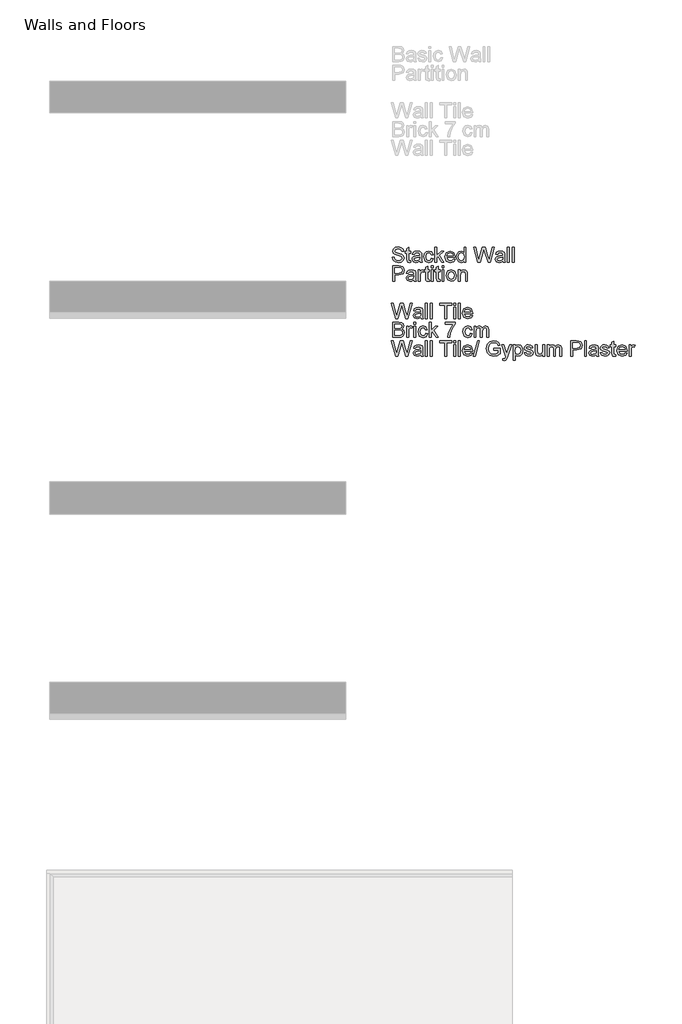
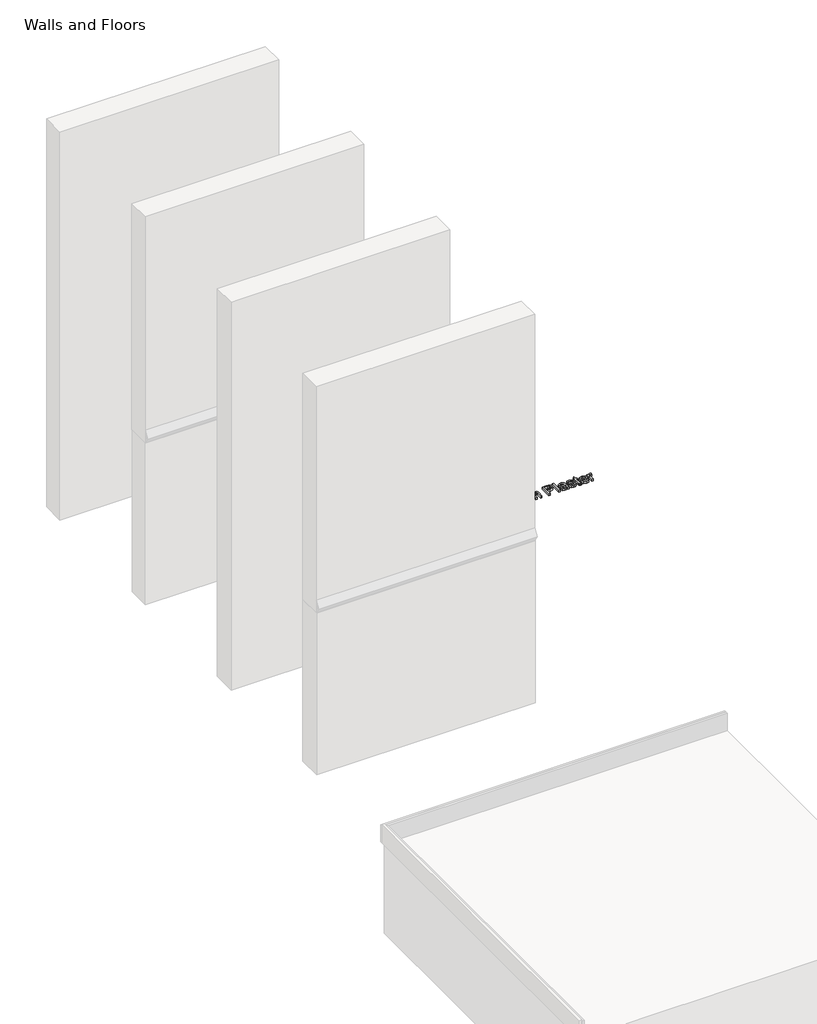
# One storey, part 2 of 2: 1 proxy.
"""IFC4 building model written with IfcOpenShell, lengths in millimetres."""

from ifc_helpers import new_model, si_unit, origin, origin_with_axes, place, context, project, spatial, polyline, outline, extrude, element, save

model = new_model("IFC4")

# Units and contexts
model_context = context("Model", 3, world=origin())
ifc_project = project(units=[si_unit("LENGTHUNIT", "METRE", prefix="MILLI")], contexts=[model_context])

# Site, building, storey
site = spatial("IfcSite", under=ifc_project)
building = spatial("IfcBuilding", under=site)
storey = spatial("IfcBuildingStorey", under=building, Name="Walls and Floors", Elevation=0.0)

# Proxy
placement = place(None, origin())
element("IfcBuildingElementProxy", 1, Name="4mm Arial", ObjectType="4mm Arial", at=placement, inside=storey, context=model_context, shape_type="SweptSolid", body=[
    extrude(outline(polyline([(-3844.7801317, -1635.8686232), (-3838.6262856, -1635.8686232), (-3836.6431125, -1642.028479), (-3831.7993625, -1645.9227098), (-3824.4195548, -1647.4070848), (-3817.9892663, -1646.2832867), (-3813.8366221, -1643.1943444), (-3812.4724394, -1639.0657386), (-3813.494074, -1635.2255944), (-3817.6767663, -1632.4311232), (-3826.6371029, -1630.0813636), (-3836.2825356, -1627.0465079), (-3841.5169106, -1622.4671809), (-3843.2416702, -1616.3493925), (-3841.1082567, -1609.3842482), (-3834.8762856, -1604.4683829), (-3825.7536894, -1602.7917002), (-3816.0181125, -1604.5465079), (-3809.5277279, -1609.7027579), (-3807.087824, -1617.4070848), (-3813.2416702, -1617.4070848), (-3816.7272471, -1611.0849694), (-3825.5133048, -1608.9455463), (-3834.323401, -1611.0609309), (-3837.087824, -1616.169104), (-3835.1286894, -1620.4359309), (-3825.0806125, -1623.8734309), (-3814.1911894, -1626.9623732), (-3808.2356606, -1631.950354), (-3806.3185933, -1638.9094886), (-3808.5241221, -1646.2712675), (-3814.870276, -1651.6438636), (-3824.1791702, -1653.5609309), (-3835.1707567, -1651.4936232), (-3842.1238817, -1645.2676617), (-3844.7801317, -1635.8686232)])), origin_with_axes(), (0.0, 0.0, 1.0), 10.0),
    extrude(outline(polyline([(-3784.7801317, -1647.6594886), (-3784.010901, -1652.9719886), (-3788.6142663, -1653.5609309), (-3793.7705163, -1652.5392963), (-3796.3426317, -1649.8590079), (-3797.087824, -1642.8758348), (-3797.087824, -1622.7917002), (-3801.7032087, -1622.7917002), (-3801.7032087, -1616.637854), (-3797.087824, -1616.637854), (-3797.087824, -1607.8517963), (-3790.9339779, -1604.2340079), (-3790.9339779, -1616.637854), (-3784.7801317, -1616.637854), (-3784.7801317, -1622.7917002), (-3790.9339779, -1622.7917002), (-3790.9339779, -1642.6955463), (-3790.6094587, -1645.8686232), (-3787.4604202, -1647.4070848), (-3784.7801317, -1647.6594886)])), origin_with_axes(), (0.0, 0.0, 1.0), 10.0),
    extrude(outline(polyline([(-3755.5493625, -1648.1763155), (-3761.5169106, -1652.3469886), (-3768.1094587, -1653.5609309), (-3777.0457567, -1650.6402579), (-3780.1647471, -1643.1763155), (-3778.9868625, -1638.3085271), (-3775.8919106, -1634.7748732), (-3771.5830163, -1632.7556425), (-3766.2584971, -1631.8301617), (-3755.5854202, -1629.7147771), (-3757.244074, -1623.8013155), (-3764.0469587, -1622.0224694), (-3770.2729202, -1623.2063636), (-3773.2416702, -1627.4070848), (-3779.3955163, -1626.637854), (-3776.7332567, -1620.6282386), (-3771.3726798, -1617.106604), (-3763.2536894, -1615.8686232), (-3755.7957567, -1616.9623732), (-3751.5830163, -1619.7087675), (-3749.6959971, -1623.8854502), (-3749.3955163, -1629.2700655), (-3749.3955163, -1636.9263155), (-3749.0830163, -1647.6174213), (-3747.8570548, -1652.7917002), (-3754.010901, -1652.7917002), (-3755.5493625, -1648.1763155)]), holes=[polyline([(-3755.5493625, -1635.8686232), (-3765.4772471, -1637.7556425), (-3770.7717183, -1638.7532386), (-3773.1695548, -1640.3758348), (-3774.010901, -1642.7436232), (-3772.1779683, -1646.0729502), (-3766.7993625, -1647.4070848), (-3760.573401, -1645.934729), (-3756.5589779, -1642.3710271), (-3755.5854202, -1637.6114117), (-3755.5493625, -1635.8686232)])]), origin_with_axes(), (0.0, 0.0, 1.0), 10.0),
    extrude(outline(polyline([(-3717.8570548, -1639.7147771), (-3711.7032087, -1640.4840079), (-3716.6431125, -1650.0933829), (-3726.4027279, -1653.5609309), (-3738.0673913, -1648.7231905), (-3742.4724394, -1634.8469886), (-3740.5914298, -1624.6246329), (-3734.8582567, -1618.0561232), (-3726.4868625, -1615.8686232), (-3717.1298913, -1618.8734309), (-3712.4724394, -1627.4070848), (-3718.6262856, -1628.1763155), (-3721.4808529, -1623.5669405), (-3726.4387856, -1622.0224694), (-3733.572199, -1625.0633348), (-3736.3185933, -1634.6787194), (-3733.6322952, -1644.3842482), (-3726.6070548, -1647.4070848), (-3720.807776, -1645.5200655), (-3717.8570548, -1639.7147771)])), origin_with_axes(), (0.0, 0.0, 1.0), 10.0),
    extrude(outline(polyline([(-3706.3185933, -1652.7917002), (-3706.3185933, -1603.5609309), (-3700.1647471, -1603.5609309), (-3700.1647471, -1630.0152579), (-3686.3666702, -1616.637854), (-3677.8570548, -1616.637854), (-3691.823401, -1630.1835271), (-3677.087824, -1652.7917002), (-3684.275324, -1652.7917002), (-3696.2344587, -1634.4623732), (-3700.1647471, -1638.2724694), (-3700.1647471, -1652.7917002), (-3706.3185933, -1652.7917002)])), origin_with_axes(), (0.0, 0.0, 1.0), 10.0),
    extrude(outline(polyline([(-3646.3907087, -1642.0224694), (-3640.3570548, -1642.7917002), (-3646.0000837, -1650.7364117), (-3656.510901, -1653.5609309), (-3669.2873433, -1648.6871329), (-3674.010901, -1635.0152579), (-3669.2392663, -1620.8926617), (-3656.8594587, -1615.8686232), (-3644.8342183, -1620.8806425), (-3640.1647471, -1634.9792002), (-3640.2008048, -1636.637854), (-3667.8570548, -1636.637854), (-3664.3173913, -1644.6306425), (-3656.3907087, -1647.4070848), (-3650.3570548, -1646.1210271), (-3646.3907087, -1642.0224694)]), holes=[polyline([(-3667.8570548, -1630.4840079), (-3646.3185933, -1630.4840079), (-3648.7825356, -1624.9070848), (-3656.8834971, -1622.0224694), (-3664.4616221, -1624.3241521), (-3667.8570548, -1630.4840079)])]), origin_with_axes(), (0.0, 0.0, 1.0), 10.0),
    extrude(outline(polyline([(-3611.7032087, -1652.7917002), (-3611.7032087, -1646.9864117), (-3615.7747231, -1651.9173011), (-3621.4027279, -1653.5609309), (-3629.0229202, -1651.1811232), (-3634.4075356, -1644.5404982), (-3636.3185933, -1634.7508348), (-3634.557776, -1624.9551617), (-3629.2813337, -1618.2123732), (-3621.4267663, -1615.8686232), (-3615.7536894, -1617.5453059), (-3611.7032087, -1621.9022771), (-3611.7032087, -1603.5609309), (-3605.5493625, -1603.5609309), (-3605.5493625, -1652.7917002), (-3611.7032087, -1652.7917002)]), holes=[polyline([(-3630.1647471, -1634.7267963), (-3627.3883048, -1644.2520367), (-3620.837824, -1647.4070848), (-3614.3654683, -1644.3962675), (-3611.7032087, -1635.1955463), (-3614.4135452, -1625.2075655), (-3621.0902279, -1622.0224694), (-3627.5685933, -1625.0813636), (-3630.1647471, -1634.7267963)])]), origin_with_axes(), (0.0, 0.0, 1.0), 10.0),
    extrude(outline(polyline([(-3567.5084971, -1652.7917002), (-3580.9339779, -1603.5609309), (-3574.587824, -1603.5609309), (-3566.7993625, -1635.9167002), (-3564.3955163, -1645.9046809), (-3561.823401, -1637.0705463), (-3552.0637856, -1603.5609309), (-3542.917151, -1603.5609309), (-3535.8258048, -1627.8517963), (-3530.5493625, -1645.9046809), (-3528.2176317, -1636.2051617), (-3520.3570548, -1603.5609309), (-3514.010901, -1603.5609309), (-3527.448401, -1652.7917002), (-3534.0229202, -1652.7917002), (-3545.8258048, -1614.8109309), (-3547.4724394, -1609.5104502), (-3549.323401, -1615.8926617), (-3560.0806125, -1652.7917002), (-3567.5084971, -1652.7917002)])), origin_with_axes(), (0.0, 0.0, 1.0), 10.0),
    extrude(outline(polyline([(-3485.5493625, -1648.1763155), (-3491.5169106, -1652.3469886), (-3498.1094587, -1653.5609309), (-3507.0457567, -1650.6402579), (-3510.1647471, -1643.1763155), (-3508.9868625, -1638.3085271), (-3505.8919106, -1634.7748732), (-3501.5830163, -1632.7556425), (-3496.2584971, -1631.8301617), (-3485.5854202, -1629.7147771), (-3487.244074, -1623.8013155), (-3494.0469587, -1622.0224694), (-3500.2729202, -1623.2063636), (-3503.2416702, -1627.4070848), (-3509.3955163, -1626.637854), (-3506.7332567, -1620.6282386), (-3501.3726798, -1617.106604), (-3493.2536894, -1615.8686232), (-3485.7957567, -1616.9623732), (-3481.5830163, -1619.7087675), (-3479.6959971, -1623.8854502), (-3479.3955163, -1629.2700655), (-3479.3955163, -1636.9263155), (-3479.0830163, -1647.6174213), (-3477.8570548, -1652.7917002), (-3484.010901, -1652.7917002), (-3485.5493625, -1648.1763155)]), holes=[polyline([(-3485.5493625, -1635.8686232), (-3495.4772471, -1637.7556425), (-3500.7717183, -1638.7532386), (-3503.1695548, -1640.3758348), (-3504.010901, -1642.7436232), (-3502.1779683, -1646.0729502), (-3496.7993625, -1647.4070848), (-3490.573401, -1645.934729), (-3486.5589779, -1642.3710271), (-3485.5854202, -1637.6114117), (-3485.5493625, -1635.8686232)])]), origin_with_axes(), (0.0, 0.0, 1.0), 10.0),
    extrude(outline(polyline([(-3470.9339779, -1652.7917002), (-3470.9339779, -1603.5609309), (-3464.7801317, -1603.5609309), (-3464.7801317, -1652.7917002), (-3470.9339779, -1652.7917002)])), origin_with_axes(), (0.0, 0.0, 1.0), 10.0),
    extrude(outline(polyline([(-3455.5493625, -1652.7917002), (-3455.5493625, -1603.5609309), (-3449.3955163, -1603.5609309), (-3449.3955163, -1652.7917002), (-3455.5493625, -1652.7917002)])), origin_with_axes(), (0.0, 0.0, 1.0), 10.0),
    extrude(outline(polyline([(-3842.4724394, -1713.5609309), (-3842.4724394, -1664.3301617), (-3824.2272471, -1664.3301617), (-3816.8714779, -1664.7989117), (-3810.8919106, -1667.1005944), (-3807.0157087, -1671.8602098), (-3805.5493625, -1678.5729502), (-3809.509699, -1689.2099694), (-3823.806574, -1693.5609309), (-3836.3185933, -1693.5609309), (-3836.3185933, -1713.5609309), (-3842.4724394, -1713.5609309)]), holes=[polyline([(-3836.3185933, -1687.4070848), (-3823.4459971, -1687.4070848), (-3814.3834971, -1685.1474694), (-3811.7032087, -1678.7892963), (-3813.2837375, -1673.6931425), (-3817.4363817, -1670.9046809), (-3823.5902279, -1670.4840079), (-3836.3185933, -1670.4840079), (-3836.3185933, -1687.4070848)])]), origin_with_axes(), (0.0, 0.0, 1.0), 10.0),
    extrude(outline(polyline([(-3774.7801317, -1708.9455463), (-3780.7476798, -1713.1162194), (-3787.3402279, -1714.3301617), (-3796.276526, -1711.4094886), (-3799.3955163, -1703.9455463), (-3798.2176317, -1699.0777579), (-3795.1226798, -1695.544104), (-3790.8137856, -1693.5248732), (-3785.4892663, -1692.5993925), (-3774.8161894, -1690.4840079), (-3776.4748433, -1684.5705463), (-3783.2777279, -1682.7917002), (-3789.5036894, -1683.9755944), (-3792.4724394, -1688.1763155), (-3798.6262856, -1687.4070848), (-3795.964026, -1681.3974694), (-3790.603449, -1677.8758348), (-3782.4844587, -1676.637854), (-3775.026526, -1677.731604), (-3770.8137856, -1680.4779982), (-3768.9267663, -1684.6546809), (-3768.6262856, -1690.0392963), (-3768.6262856, -1697.6955463), (-3768.3137856, -1708.3866521), (-3767.087824, -1713.5609309), (-3773.2416702, -1713.5609309), (-3774.7801317, -1708.9455463)]), holes=[polyline([(-3774.7801317, -1696.637854), (-3784.7080163, -1698.5248732), (-3790.0024875, -1699.5224694), (-3792.400324, -1701.1450655), (-3793.2416702, -1703.512854), (-3791.4087375, -1706.8421809), (-3786.0301317, -1708.1763155), (-3779.8041702, -1706.7039598), (-3775.7897471, -1703.1402579), (-3774.8161894, -1698.3806425), (-3774.7801317, -1696.637854)])]), origin_with_axes(), (0.0, 0.0, 1.0), 10.0),
    extrude(outline(polyline([(-3760.1647471, -1713.5609309), (-3760.1647471, -1677.4070848), (-3754.7801317, -1677.4070848), (-3754.7801317, -1682.7556425), (-3750.9580163, -1677.8277579), (-3747.1118625, -1676.637854), (-3740.9339779, -1678.5368925), (-3742.9892663, -1684.0537194), (-3747.3161894, -1682.7917002), (-3750.7957567, -1684.0056425), (-3753.0133048, -1687.3710271), (-3754.010901, -1694.5585271), (-3754.010901, -1713.5609309), (-3760.1647471, -1713.5609309)])), origin_with_axes(), (0.0, 0.0, 1.0), 10.0),
    extrude(outline(polyline([(-3724.010901, -1708.4287194), (-3723.2416702, -1713.7412194), (-3727.8450356, -1714.3301617), (-3733.0012856, -1713.3085271), (-3735.573401, -1710.6282386), (-3736.3185933, -1703.6450655), (-3736.3185933, -1683.5609309), (-3740.9339779, -1683.5609309), (-3740.9339779, -1677.4070848), (-3736.3185933, -1677.4070848), (-3736.3185933, -1668.6210271), (-3730.1647471, -1665.0032386), (-3730.1647471, -1677.4070848), (-3724.010901, -1677.4070848), (-3724.010901, -1683.5609309), (-3730.1647471, -1683.5609309), (-3730.1647471, -1703.4647771), (-3729.8402279, -1706.637854), (-3726.6911894, -1708.1763155), (-3724.010901, -1708.4287194)])), origin_with_axes(), (0.0, 0.0, 1.0), 10.0),
    extrude(outline(polyline([(-3717.8570548, -1670.4840079), (-3717.8570548, -1664.3301617), (-3711.7032087, -1664.3301617), (-3711.7032087, -1670.4840079), (-3717.8570548, -1670.4840079)])), origin_with_axes(), (0.0, 0.0, 1.0), 10.0),
    extrude(outline(polyline([(-3717.8570548, -1713.5609309), (-3717.8570548, -1677.4070848), (-3711.7032087, -1677.4070848), (-3711.7032087, -1713.5609309), (-3717.8570548, -1713.5609309)])), origin_with_axes(), (0.0, 0.0, 1.0), 10.0),
    extrude(outline(polyline([(-3689.3955163, -1708.4287194), (-3688.6262856, -1713.7412194), (-3693.229651, -1714.3301617), (-3698.385901, -1713.3085271), (-3700.9580163, -1710.6282386), (-3701.7032087, -1703.6450655), (-3701.7032087, -1683.5609309), (-3706.3185933, -1683.5609309), (-3706.3185933, -1677.4070848), (-3701.7032087, -1677.4070848), (-3701.7032087, -1668.6210271), (-3695.5493625, -1665.0032386), (-3695.5493625, -1677.4070848), (-3689.3955163, -1677.4070848), (-3689.3955163, -1683.5609309), (-3695.5493625, -1683.5609309), (-3695.5493625, -1703.4647771), (-3695.2248433, -1706.637854), (-3692.0758048, -1708.1763155), (-3689.3955163, -1708.4287194)])), origin_with_axes(), (0.0, 0.0, 1.0), 10.0),
    extrude(outline(polyline([(-3683.2416702, -1713.5609309), (-3683.2416702, -1677.4070848), (-3677.087824, -1677.4070848), (-3677.087824, -1713.5609309), (-3683.2416702, -1713.5609309)])), origin_with_axes(), (0.0, 0.0, 1.0), 10.0),
    extrude(outline(polyline([(-3683.2416702, -1670.4840079), (-3683.2416702, -1664.3301617), (-3677.087824, -1664.3301617), (-3677.087824, -1670.4840079), (-3683.2416702, -1670.4840079)])), origin_with_axes(), (0.0, 0.0, 1.0), 10.0),
    extrude(outline(polyline([(-3669.3955163, -1695.4840079), (-3668.0643865, -1686.7670607), (-3664.0709971, -1680.6402579), (-3653.229651, -1676.637854), (-3641.6010452, -1681.5116521), (-3637.087824, -1694.9792002), (-3639.0830163, -1705.9287194), (-3644.8943144, -1712.1246329), (-3653.229651, -1714.3301617), (-3664.9303721, -1709.4743925), (-3669.3955163, -1695.4840079)]), holes=[polyline([(-3663.2416702, -1695.4719886), (-3660.3931125, -1705.0092482), (-3653.229651, -1708.1763155), (-3646.0902279, -1704.9912194), (-3643.2416702, -1695.2796809), (-3646.1082567, -1685.9587675), (-3653.229651, -1682.7917002), (-3660.3931125, -1685.9467482), (-3663.2416702, -1695.4719886)])]), origin_with_axes(), (0.0, 0.0, 1.0), 10.0),
    extrude(outline(polyline([(-3630.1647471, -1713.5609309), (-3630.1647471, -1677.4070848), (-3624.010901, -1677.4070848), (-3624.010901, -1682.4551617), (-3619.3053721, -1678.0921809), (-3612.8810933, -1676.637854), (-3607.0697952, -1677.809729), (-3603.103449, -1680.8866521), (-3601.2584971, -1685.4118925), (-3600.9339779, -1691.3614117), (-3600.9339779, -1713.5609309), (-3607.087824, -1713.5609309), (-3607.087824, -1692.1907386), (-3607.7969587, -1686.7460271), (-3610.3029683, -1683.8674213), (-3614.5277279, -1682.7917002), (-3621.2044106, -1685.2075655), (-3624.010901, -1694.3782386), (-3624.010901, -1713.5609309), (-3630.1647471, -1713.5609309)])), origin_with_axes(), (0.0, 0.0, 1.0), 10.0),
    extrude(outline(polyline([(-3833.6623433, -1835.0993925), (-3847.087824, -1785.8686232), (-3840.7416702, -1785.8686232), (-3832.9532087, -1818.2243925), (-3830.5493625, -1828.2123732), (-3827.9772471, -1819.3782386), (-3818.2176317, -1785.8686232), (-3809.0709971, -1785.8686232), (-3801.979651, -1810.1594886), (-3796.7032087, -1828.2123732), (-3794.3714779, -1818.512854), (-3786.510901, -1785.8686232), (-3780.1647471, -1785.8686232), (-3793.6022471, -1835.0993925), (-3800.1767663, -1835.0993925), (-3811.979651, -1797.1186232), (-3813.6262856, -1791.8181425), (-3815.4772471, -1798.200354), (-3826.2344587, -1835.0993925), (-3833.6623433, -1835.0993925)])), origin_with_axes(), (0.0, 0.0, 1.0), 10.0),
    extrude(outline(polyline([(-3751.7032087, -1830.4840079), (-3757.6707567, -1834.6546809), (-3764.2633048, -1835.8686232), (-3773.1996029, -1832.9479502), (-3776.3185933, -1825.4840079), (-3775.1407087, -1820.6162194), (-3772.0457567, -1817.0825655), (-3767.7368625, -1815.0633348), (-3762.4123433, -1814.137854), (-3751.7392663, -1812.0224694), (-3753.3979202, -1806.1090079), (-3760.2008048, -1804.3301617), (-3766.4267663, -1805.5140559), (-3769.3955163, -1809.7147771), (-3775.5493625, -1808.9455463), (-3772.8871029, -1802.9359309), (-3767.526526, -1799.4142963), (-3759.4075356, -1798.1763155), (-3751.9496029, -1799.2700655), (-3747.7368625, -1802.0164598), (-3745.8498433, -1806.1931425), (-3745.5493625, -1811.5777579), (-3745.5493625, -1819.2340079), (-3745.2368625, -1829.9251136), (-3744.010901, -1835.0993925), (-3750.1647471, -1835.0993925), (-3751.7032087, -1830.4840079)]), holes=[polyline([(-3751.7032087, -1818.1763155), (-3761.6310933, -1820.0633348), (-3766.9255644, -1821.0609309), (-3769.323401, -1822.6835271), (-3770.1647471, -1825.0513155), (-3768.3318144, -1828.3806425), (-3762.9532087, -1829.7147771), (-3756.7272471, -1828.2424213), (-3752.712824, -1824.6787194), (-3751.7392663, -1819.919104), (-3751.7032087, -1818.1763155)])]), origin_with_axes(), (0.0, 0.0, 1.0), 10.0),
    extrude(outline(polyline([(-3737.087824, -1835.0993925), (-3737.087824, -1785.8686232), (-3730.9339779, -1785.8686232), (-3730.9339779, -1835.0993925), (-3737.087824, -1835.0993925)])), origin_with_axes(), (0.0, 0.0, 1.0), 10.0),
    extrude(outline(polyline([(-3721.7032087, -1835.0993925), (-3721.7032087, -1785.8686232), (-3715.5493625, -1785.8686232), (-3715.5493625, -1835.0993925), (-3721.7032087, -1835.0993925)])), origin_with_axes(), (0.0, 0.0, 1.0), 10.0),
    extrude(outline(polyline([(-3674.010901, -1835.0993925), (-3674.010901, -1792.0224694), (-3690.1647471, -1792.0224694), (-3690.1647471, -1785.8686232), (-3651.7032087, -1785.8686232), (-3651.7032087, -1792.0224694), (-3667.8570548, -1792.0224694), (-3667.8570548, -1835.0993925), (-3674.010901, -1835.0993925)])), origin_with_axes(), (0.0, 0.0, 1.0), 10.0),
    extrude(outline(polyline([(-3645.5493625, -1835.0993925), (-3645.5493625, -1798.9455463), (-3639.3955163, -1798.9455463), (-3639.3955163, -1835.0993925), (-3645.5493625, -1835.0993925)])), origin_with_axes(), (0.0, 0.0, 1.0), 10.0),
    extrude(outline(polyline([(-3645.5493625, -1792.0224694), (-3645.5493625, -1785.8686232), (-3639.3955163, -1785.8686232), (-3639.3955163, -1792.0224694), (-3645.5493625, -1792.0224694)])), origin_with_axes(), (0.0, 0.0, 1.0), 10.0),
    extrude(outline(polyline([(-3630.1647471, -1835.0993925), (-3630.1647471, -1785.8686232), (-3624.010901, -1785.8686232), (-3624.010901, -1835.0993925), (-3630.1647471, -1835.0993925)])), origin_with_axes(), (0.0, 0.0, 1.0), 10.0),
    extrude(outline(polyline([(-3589.4676317, -1824.3301617), (-3583.4339779, -1825.0993925), (-3589.0770067, -1833.044104), (-3599.587824, -1835.8686232), (-3612.3642663, -1830.9948252), (-3617.087824, -1817.3229502), (-3612.3161894, -1803.200354), (-3599.9363817, -1798.1763155), (-3587.9111413, -1803.1883348), (-3583.2416702, -1817.2868925), (-3583.2777279, -1818.9455463), (-3610.9339779, -1818.9455463), (-3607.3943144, -1826.9383348), (-3599.4676317, -1829.7147771), (-3593.4339779, -1828.4287194), (-3589.4676317, -1824.3301617)]), holes=[polyline([(-3610.9339779, -1812.7917002), (-3589.3955163, -1812.7917002), (-3591.8594587, -1807.2147771), (-3599.9604202, -1804.3301617), (-3607.5385452, -1806.6318444), (-3610.9339779, -1812.7917002)])]), origin_with_axes(), (0.0, 0.0, 1.0), 10.0),
    extrude(outline(polyline([(-3842.4724394, -1895.8686232), (-3842.4724394, -1846.637854), (-3823.6863817, -1846.637854), (-3814.4856606, -1848.0861713), (-3809.0529683, -1852.5392963), (-3807.087824, -1858.8373732), (-3808.7404683, -1864.5885752), (-3813.7344587, -1868.9455463), (-3807.6707567, -1873.5368925), (-3805.5493625, -1881.1931425), (-3806.9976798, -1887.809729), (-3810.5854202, -1892.5212675), (-3815.9399875, -1895.0212675), (-3823.8306125, -1895.8686232), (-3842.4724394, -1895.8686232)]), holes=[polyline([(-3836.3185933, -1889.7147771), (-3823.698401, -1889.7147771), (-3819.1310933, -1889.4743925), (-3815.2669106, -1888.1342482), (-3812.7068144, -1885.3998732), (-3811.7032087, -1881.2532386), (-3812.8810933, -1876.4695848), (-3816.697199, -1873.6150175), (-3824.2993625, -1872.7917002), (-3836.3185933, -1872.7917002), (-3836.3185933, -1889.7147771)]), polyline([(-3836.3185933, -1866.637854), (-3825.0806125, -1866.637854), (-3818.5181125, -1866.1090079), (-3814.5697952, -1863.8313636), (-3813.2416702, -1859.8229502), (-3814.479651, -1855.8085271), (-3818.025324, -1853.434729), (-3825.9339779, -1852.7917002), (-3836.3185933, -1852.7917002), (-3836.3185933, -1866.637854)])]), origin_with_axes(), (0.0, 0.0, 1.0), 10.0),
    extrude(outline(polyline([(-3797.8570548, -1895.8686232), (-3797.8570548, -1859.7147771), (-3792.4724394, -1859.7147771), (-3792.4724394, -1865.0633348), (-3788.650324, -1860.1354502), (-3784.8041702, -1858.9455463), (-3778.6262856, -1860.8445848), (-3780.681574, -1866.3614117), (-3785.0084971, -1865.0993925), (-3788.4880644, -1866.3133348), (-3790.7056125, -1869.6787194), (-3791.7032087, -1876.8662194), (-3791.7032087, -1895.8686232), (-3797.8570548, -1895.8686232)])), origin_with_axes(), (0.0, 0.0, 1.0), 10.0),
    extrude(outline(polyline([(-3774.7801317, -1852.7917002), (-3774.7801317, -1846.637854), (-3768.6262856, -1846.637854), (-3768.6262856, -1852.7917002), (-3774.7801317, -1852.7917002)])), origin_with_axes(), (0.0, 0.0, 1.0), 10.0),
    extrude(outline(polyline([(-3774.7801317, -1895.8686232), (-3774.7801317, -1859.7147771), (-3768.6262856, -1859.7147771), (-3768.6262856, -1895.8686232), (-3774.7801317, -1895.8686232)])), origin_with_axes(), (0.0, 0.0, 1.0), 10.0),
    extrude(outline(polyline([(-3736.3185933, -1882.7917002), (-3730.1647471, -1883.5609309), (-3735.104651, -1893.1703059), (-3744.8642663, -1896.637854), (-3756.5289298, -1891.8001136), (-3760.9339779, -1877.9239117), (-3759.0529683, -1867.7015559), (-3753.3197952, -1861.1330463), (-3744.948401, -1858.9455463), (-3735.5914298, -1861.950354), (-3730.9339779, -1870.4840079), (-3737.087824, -1871.2532386), (-3739.9423913, -1866.6438636), (-3744.900324, -1865.0993925), (-3752.0337375, -1868.1402579), (-3754.7801317, -1877.7556425), (-3752.0938337, -1887.4611713), (-3745.0685933, -1890.4840079), (-3739.2693144, -1888.5969886), (-3736.3185933, -1882.7917002)])), origin_with_axes(), (0.0, 0.0, 1.0), 10.0),
    extrude(outline(polyline([(-3724.7801317, -1895.8686232), (-3724.7801317, -1846.637854), (-3718.6262856, -1846.637854), (-3718.6262856, -1873.0921809), (-3704.8282087, -1859.7147771), (-3696.3185933, -1859.7147771), (-3710.2849394, -1873.2604502), (-3695.5493625, -1895.8686232), (-3702.7368625, -1895.8686232), (-3714.6959971, -1877.5392963), (-3718.6262856, -1881.3493925), (-3718.6262856, -1895.8686232), (-3724.7801317, -1895.8686232)])), origin_with_axes(), (0.0, 0.0, 1.0), 10.0),
    extrude(outline(polyline([(-3672.4724394, -1853.5609309), (-3672.4724394, -1847.4070848), (-3640.1647471, -1847.4070848), (-3640.1647471, -1852.3830463), (-3649.3294106, -1865.622229), (-3656.3426317, -1882.4912194), (-3658.6262856, -1895.8686232), (-3664.7801317, -1895.8686232), (-3662.3342183, -1881.9864117), (-3655.6214779, -1866.2953059), (-3646.3185933, -1853.5609309), (-3672.4724394, -1853.5609309)])), origin_with_axes(), (0.0, 0.0, 1.0), 10.0),
    extrude(outline(polyline([(-3590.9339779, -1882.7917002), (-3584.7801317, -1883.5609309), (-3589.7200356, -1893.1703059), (-3599.479651, -1896.637854), (-3611.1443144, -1891.8001136), (-3615.5493625, -1877.9239117), (-3613.6683529, -1867.7015559), (-3607.9351798, -1861.1330463), (-3599.5637856, -1858.9455463), (-3590.2068144, -1861.950354), (-3585.5493625, -1870.4840079), (-3591.7032087, -1871.2532386), (-3594.557776, -1866.6438636), (-3599.5157087, -1865.0993925), (-3606.6491221, -1868.1402579), (-3609.3955163, -1877.7556425), (-3606.7092183, -1887.4611713), (-3599.6839779, -1890.4840079), (-3593.884699, -1888.5969886), (-3590.9339779, -1882.7917002)])), origin_with_axes(), (0.0, 0.0, 1.0), 10.0),
    extrude(outline(polyline([(-3579.3955163, -1895.8686232), (-3579.3955163, -1859.7147771), (-3573.2416702, -1859.7147771), (-3573.2416702, -1865.6642963), (-3569.010901, -1860.7904982), (-3562.9892663, -1858.9455463), (-3556.823401, -1860.8265559), (-3553.4339779, -1866.0969886), (-3548.6322952, -1860.7334069), (-3542.5685933, -1858.9455463), (-3534.5217183, -1861.9203059), (-3531.7032087, -1871.0849694), (-3531.7032087, -1895.8686232), (-3537.8570548, -1895.8686232), (-3537.8570548, -1873.7292002), (-3538.4279683, -1868.590979), (-3540.495276, -1866.0609309), (-3544.010901, -1865.0993925), (-3550.0625837, -1867.5633348), (-3552.4724394, -1875.4599694), (-3552.4724394, -1895.8686232), (-3558.6262856, -1895.8686232), (-3558.6262856, -1873.044104), (-3560.0505644, -1867.0825655), (-3564.7200356, -1865.0993925), (-3569.275324, -1866.4215079), (-3572.3041702, -1870.2917002), (-3573.2416702, -1877.6354502), (-3573.2416702, -1895.8686232), (-3579.3955163, -1895.8686232)])), origin_with_axes(), (0.0, 0.0, 1.0), 10.0),
    extrude(outline(polyline([(-3833.6623433, -1956.637854), (-3847.087824, -1907.4070848), (-3840.7416702, -1907.4070848), (-3832.9532087, -1939.762854), (-3830.5493625, -1949.7508348), (-3827.9772471, -1940.9167002), (-3818.2176317, -1907.4070848), (-3809.0709971, -1907.4070848), (-3801.979651, -1931.6979502), (-3796.7032087, -1949.7508348), (-3794.3714779, -1940.0513155), (-3786.510901, -1907.4070848), (-3780.1647471, -1907.4070848), (-3793.6022471, -1956.637854), (-3800.1767663, -1956.637854), (-3811.979651, -1918.6570848), (-3813.6262856, -1913.356604), (-3815.4772471, -1919.7388155), (-3826.2344587, -1956.637854), (-3833.6623433, -1956.637854)])), origin_with_axes(), (0.0, 0.0, 1.0), 10.0),
    extrude(outline(polyline([(-3751.7032087, -1952.0224694), (-3757.6707567, -1956.1931425), (-3764.2633048, -1957.4070848), (-3773.1996029, -1954.4864117), (-3776.3185933, -1947.0224694), (-3775.1407087, -1942.1546809), (-3772.0457567, -1938.6210271), (-3767.7368625, -1936.6017963), (-3762.4123433, -1935.6763155), (-3751.7392663, -1933.5609309), (-3753.3979202, -1927.6474694), (-3760.2008048, -1925.8686232), (-3766.4267663, -1927.0525175), (-3769.3955163, -1931.2532386), (-3775.5493625, -1930.4840079), (-3772.8871029, -1924.4743925), (-3767.526526, -1920.9527579), (-3759.4075356, -1919.7147771), (-3751.9496029, -1920.8085271), (-3747.7368625, -1923.5549213), (-3745.8498433, -1927.731604), (-3745.5493625, -1933.1162194), (-3745.5493625, -1940.7724694), (-3745.2368625, -1951.4635752), (-3744.010901, -1956.637854), (-3750.1647471, -1956.637854), (-3751.7032087, -1952.0224694)]), holes=[polyline([(-3751.7032087, -1939.7147771), (-3761.6310933, -1941.6017963), (-3766.9255644, -1942.5993925), (-3769.323401, -1944.2219886), (-3770.1647471, -1946.5897771), (-3768.3318144, -1949.919104), (-3762.9532087, -1951.2532386), (-3756.7272471, -1949.7808829), (-3752.712824, -1946.2171809), (-3751.7392663, -1941.4575655), (-3751.7032087, -1939.7147771)])]), origin_with_axes(), (0.0, 0.0, 1.0), 10.0),
    extrude(outline(polyline([(-3737.087824, -1956.637854), (-3737.087824, -1907.4070848), (-3730.9339779, -1907.4070848), (-3730.9339779, -1956.637854), (-3737.087824, -1956.637854)])), origin_with_axes(), (0.0, 0.0, 1.0), 10.0),
    extrude(outline(polyline([(-3721.7032087, -1956.637854), (-3721.7032087, -1907.4070848), (-3715.5493625, -1907.4070848), (-3715.5493625, -1956.637854), (-3721.7032087, -1956.637854)])), origin_with_axes(), (0.0, 0.0, 1.0), 10.0),
    extrude(outline(polyline([(-3674.010901, -1956.637854), (-3674.010901, -1913.5609309), (-3690.1647471, -1913.5609309), (-3690.1647471, -1907.4070848), (-3651.7032087, -1907.4070848), (-3651.7032087, -1913.5609309), (-3667.8570548, -1913.5609309), (-3667.8570548, -1956.637854), (-3674.010901, -1956.637854)])), origin_with_axes(), (0.0, 0.0, 1.0), 10.0),
    extrude(outline(polyline([(-3645.5493625, -1956.637854), (-3645.5493625, -1920.4840079), (-3639.3955163, -1920.4840079), (-3639.3955163, -1956.637854), (-3645.5493625, -1956.637854)])), origin_with_axes(), (0.0, 0.0, 1.0), 10.0),
    extrude(outline(polyline([(-3645.5493625, -1913.5609309), (-3645.5493625, -1907.4070848), (-3639.3955163, -1907.4070848), (-3639.3955163, -1913.5609309), (-3645.5493625, -1913.5609309)])), origin_with_axes(), (0.0, 0.0, 1.0), 10.0),
    extrude(outline(polyline([(-3630.1647471, -1956.637854), (-3630.1647471, -1907.4070848), (-3624.010901, -1907.4070848), (-3624.010901, -1956.637854), (-3630.1647471, -1956.637854)])), origin_with_axes(), (0.0, 0.0, 1.0), 10.0),
    extrude(outline(polyline([(-3589.4676317, -1945.8686232), (-3583.4339779, -1946.637854), (-3589.0770067, -1954.5825655), (-3599.587824, -1957.4070848), (-3612.3642663, -1952.5332867), (-3617.087824, -1938.8614117), (-3612.3161894, -1924.7388155), (-3599.9363817, -1919.7147771), (-3587.9111413, -1924.7267963), (-3583.2416702, -1938.825354), (-3583.2777279, -1940.4840079), (-3610.9339779, -1940.4840079), (-3607.3943144, -1948.4767963), (-3599.4676317, -1951.2532386), (-3593.4339779, -1949.9671809), (-3589.4676317, -1945.8686232)]), holes=[polyline([(-3610.9339779, -1934.3301617), (-3589.3955163, -1934.3301617), (-3591.8594587, -1928.7532386), (-3599.9604202, -1925.8686232), (-3607.5385452, -1928.1703059), (-3610.9339779, -1934.3301617)])]), origin_with_axes(), (0.0, 0.0, 1.0), 10.0),
    extrude(outline(polyline([(-3581.7032087, -1956.637854), (-3567.8570548, -1907.4070848), (-3562.3041702, -1907.4070848), (-3576.150324, -1956.637854), (-3581.7032087, -1956.637854)])), origin_with_axes(), (0.0, 0.0, 1.0), 10.0),
    extrude(outline(polyline([(-3514.7801317, -1937.4070848), (-3514.7801317, -1931.2532386), (-3494.7801317, -1931.2532386), (-3494.7801317, -1949.6546809), (-3504.6539298, -1955.4599694), (-3515.0926317, -1957.4070848), (-3528.2356606, -1954.3121329), (-3537.1539298, -1945.3517963), (-3540.1647471, -1932.262854), (-3537.165949, -1918.8794405), (-3528.542151, -1909.6546809), (-3515.5854202, -1906.637854), (-3505.9580163, -1908.3866521), (-3499.2092183, -1913.2544405), (-3495.4892663, -1921.3974694), (-3501.1623433, -1922.9960271), (-3503.9688337, -1917.3049213), (-3508.7645067, -1914.0236713), (-3515.681574, -1912.7917002), (-3523.5601798, -1914.1198252), (-3528.9207567, -1917.6054021), (-3532.087824, -1922.3469886), (-3534.010901, -1932.0104502), (-3531.697199, -1942.7376136), (-3524.9664298, -1949.1558829), (-3515.5854202, -1951.2532386), (-3507.165949, -1949.6727098), (-3500.9339779, -1946.3013155), (-3500.9339779, -1937.4070848), (-3514.7801317, -1937.4070848)])), origin_with_axes(), (0.0, 0.0, 1.0), 10.0),
    extrude(outline(polyline([(-3485.5493625, -1970.4840079), (-3486.3185933, -1964.5585271), (-3483.1935933, -1965.0993925), (-3480.2729202, -1964.4203059), (-3478.4820548, -1962.5272771), (-3476.7993625, -1957.9960271), (-3489.3955163, -1920.4840079), (-3482.9051317, -1920.4840079), (-3475.9700356, -1940.5561232), (-3473.5541702, -1948.5849694), (-3471.1383048, -1941.4936232), (-3464.010901, -1920.4840079), (-3457.5685933, -1920.4840079), (-3470.1527279, -1957.5032386), (-3473.4219587, -1965.5320848), (-3476.9916702, -1969.8710271), (-3481.7873433, -1971.2532386), (-3485.5493625, -1970.4840079)])), origin_with_axes(), (0.0, 0.0, 1.0), 10.0),
    extrude(outline(polyline([(-3452.4724394, -1970.4840079), (-3452.4724394, -1920.4840079), (-3446.3185933, -1920.4840079), (-3446.3185933, -1926.5176617), (-3442.0637856, -1921.4154982), (-3436.3185933, -1919.7147771), (-3428.5181125, -1922.0945848), (-3423.4219587, -1928.8013155), (-3421.7032087, -1938.2844886), (-3423.6443144, -1948.2544405), (-3429.2813337, -1955.0453059), (-3437.0637856, -1957.4070848), (-3442.4183529, -1955.8265559), (-3446.3185933, -1951.8301617), (-3446.3185933, -1970.4840079), (-3452.4724394, -1970.4840079)]), holes=[polyline([(-3446.3185933, -1938.8493925), (-3443.6563337, -1948.2243925), (-3437.1959971, -1951.2532386), (-3430.603449, -1948.1162194), (-3427.8570548, -1938.3926617), (-3430.5373433, -1928.9936232), (-3436.9435933, -1925.8686232), (-3443.4760452, -1929.1919405), (-3446.3185933, -1938.8493925)])]), origin_with_axes(), (0.0, 0.0, 1.0), 10.0),
    extrude(outline(polyline([(-3417.087824, -1945.8686232), (-3410.9339779, -1945.0993925), (-3408.0854202, -1949.6667002), (-3401.5589779, -1951.2532386), (-3395.2849394, -1949.7989117), (-3393.2416702, -1946.3854502), (-3395.2969587, -1943.6210271), (-3401.6310933, -1941.8662194), (-3410.8979202, -1938.8554021), (-3414.9423913, -1935.3397771), (-3416.3185933, -1930.3758348), (-3415.212824, -1925.7904982), (-3412.1959971, -1922.2868925), (-3408.2837375, -1920.465979), (-3402.9892663, -1919.7147771), (-3395.5012856, -1920.9227098), (-3390.7416702, -1924.1919405), (-3388.6262856, -1929.7147771), (-3394.7801317, -1930.4840079), (-3397.0938337, -1927.0885752), (-3402.5084971, -1925.8686232), (-3408.3979202, -1927.0344886), (-3410.1647471, -1929.7508348), (-3409.431574, -1931.5417002), (-3407.135901, -1932.8998732), (-3401.8354202, -1934.2099694), (-3392.8029683, -1937.106604), (-3388.6082567, -1940.387854), (-3387.087824, -1945.7364117), (-3388.8726798, -1951.6258348), (-3394.0229202, -1955.8986713), (-3401.6431125, -1957.4070848), (-3412.3762856, -1954.4984309), (-3417.087824, -1945.8686232)])), origin_with_axes(), (0.0, 0.0, 1.0), 10.0),
    extrude(outline(polyline([(-3357.087824, -1956.637854), (-3357.087824, -1950.4239117), (-3361.9075356, -1955.6612915), (-3368.1935933, -1957.4070848), (-3373.9808529, -1956.1811232), (-3377.9712375, -1953.1042002), (-3379.8041702, -1948.5729502), (-3380.1647471, -1942.8517963), (-3380.1647471, -1920.4840079), (-3374.010901, -1920.4840079), (-3374.010901, -1939.9551617), (-3373.6383048, -1946.2292002), (-3371.2044106, -1949.9130944), (-3366.619074, -1951.2532386), (-3361.4808529, -1949.8830463), (-3358.0854202, -1946.1510752), (-3357.087824, -1939.294104), (-3357.087824, -1920.4840079), (-3350.9339779, -1920.4840079), (-3350.9339779, -1956.637854), (-3357.087824, -1956.637854)])), origin_with_axes(), (0.0, 0.0, 1.0), 10.0),
    extrude(outline(polyline([(-3342.4724394, -1956.637854), (-3342.4724394, -1920.4840079), (-3336.3185933, -1920.4840079), (-3336.3185933, -1926.4335271), (-3332.087824, -1921.559729), (-3326.0661894, -1919.7147771), (-3319.900324, -1921.5957867), (-3316.510901, -1926.8662194), (-3311.7092183, -1921.5026377), (-3305.6455163, -1919.7147771), (-3297.5986413, -1922.6895367), (-3294.7801317, -1931.8542002), (-3294.7801317, -1956.637854), (-3300.9339779, -1956.637854), (-3300.9339779, -1934.4984309), (-3301.5048913, -1929.3602098), (-3303.572199, -1926.8301617), (-3307.087824, -1925.8686232), (-3313.1395067, -1928.3325655), (-3315.5493625, -1936.2292002), (-3315.5493625, -1956.637854), (-3321.7032087, -1956.637854), (-3321.7032087, -1933.8133348), (-3323.1274875, -1927.8517963), (-3327.7969587, -1925.8686232), (-3332.3522471, -1927.1907386), (-3335.3810933, -1931.0609309), (-3336.3185933, -1938.4046809), (-3336.3185933, -1956.637854), (-3342.4724394, -1956.637854)])), origin_with_axes(), (0.0, 0.0, 1.0), 10.0),
    extrude(outline(polyline([(-3265.5493625, -1956.637854), (-3265.5493625, -1907.4070848), (-3247.3041702, -1907.4070848), (-3239.948401, -1907.8758348), (-3233.9688337, -1910.1775175), (-3230.0926317, -1914.9371329), (-3228.6262856, -1921.6498732), (-3232.5866221, -1932.2868925), (-3246.8834971, -1936.637854), (-3259.3955163, -1936.637854), (-3259.3955163, -1956.637854), (-3265.5493625, -1956.637854)]), holes=[polyline([(-3259.3955163, -1930.4840079), (-3246.5229202, -1930.4840079), (-3237.4604202, -1928.2243925), (-3234.7801317, -1921.8662194), (-3236.3606606, -1916.7700655), (-3240.5133048, -1913.981604), (-3246.667151, -1913.5609309), (-3259.3955163, -1913.5609309), (-3259.3955163, -1930.4840079)])]), origin_with_axes(), (0.0, 0.0, 1.0), 10.0),
    extrude(outline(polyline([(-3220.9339779, -1956.637854), (-3220.9339779, -1907.4070848), (-3214.7801317, -1907.4070848), (-3214.7801317, -1956.637854), (-3220.9339779, -1956.637854)])), origin_with_axes(), (0.0, 0.0, 1.0), 10.0),
    extrude(outline(polyline([(-3182.4724394, -1952.0224694), (-3188.4399875, -1956.1931425), (-3195.0325356, -1957.4070848), (-3203.9688337, -1954.4864117), (-3207.087824, -1947.0224694), (-3205.9099394, -1942.1546809), (-3202.8149875, -1938.6210271), (-3198.5060933, -1936.6017963), (-3193.181574, -1935.6763155), (-3182.5084971, -1933.5609309), (-3184.167151, -1927.6474694), (-3190.9700356, -1925.8686232), (-3197.1959971, -1927.0525175), (-3200.1647471, -1931.2532386), (-3206.3185933, -1930.4840079), (-3203.6563337, -1924.4743925), (-3198.2957567, -1920.9527579), (-3190.1767663, -1919.7147771), (-3182.7188337, -1920.8085271), (-3178.5060933, -1923.5549213), (-3176.619074, -1927.731604), (-3176.3185933, -1933.1162194), (-3176.3185933, -1940.7724694), (-3176.0060933, -1951.4635752), (-3174.7801317, -1956.637854), (-3180.9339779, -1956.637854), (-3182.4724394, -1952.0224694)]), holes=[polyline([(-3182.4724394, -1939.7147771), (-3192.400324, -1941.6017963), (-3197.6947952, -1942.5993925), (-3200.0926317, -1944.2219886), (-3200.9339779, -1946.5897771), (-3199.1010452, -1949.919104), (-3193.7224394, -1951.2532386), (-3187.4964779, -1949.7808829), (-3183.4820548, -1946.2171809), (-3182.5084971, -1941.4575655), (-3182.4724394, -1939.7147771)])]), origin_with_axes(), (0.0, 0.0, 1.0), 10.0),
    extrude(outline(polyline([(-3170.1647471, -1945.8686232), (-3164.010901, -1945.0993925), (-3161.1623433, -1949.6667002), (-3154.635901, -1951.2532386), (-3148.3618625, -1949.7989117), (-3146.3185933, -1946.3854502), (-3148.3738817, -1943.6210271), (-3154.7080163, -1941.8662194), (-3163.9748433, -1938.8554021), (-3168.0193144, -1935.3397771), (-3169.3955163, -1930.3758348), (-3168.2897471, -1925.7904982), (-3165.2729202, -1922.2868925), (-3161.3606606, -1920.465979), (-3156.0661894, -1919.7147771), (-3148.5782087, -1920.9227098), (-3143.8185933, -1924.1919405), (-3141.7032087, -1929.7147771), (-3147.8570548, -1930.4840079), (-3150.1707567, -1927.0885752), (-3155.5854202, -1925.8686232), (-3161.4748433, -1927.0344886), (-3163.2416702, -1929.7508348), (-3162.5084971, -1931.5417002), (-3160.212824, -1932.8998732), (-3154.9123433, -1934.2099694), (-3145.8798913, -1937.106604), (-3141.6851798, -1940.387854), (-3140.1647471, -1945.7364117), (-3141.9496029, -1951.6258348), (-3147.0998433, -1955.8986713), (-3154.7200356, -1957.4070848), (-3165.4532087, -1954.4984309), (-3170.1647471, -1945.8686232)])), origin_with_axes(), (0.0, 0.0, 1.0), 10.0),
    extrude(outline(polyline([(-3120.1647471, -1951.5056425), (-3119.3955163, -1956.8181425), (-3123.9988817, -1957.4070848), (-3129.1551317, -1956.3854502), (-3131.7272471, -1953.7051617), (-3132.4724394, -1946.7219886), (-3132.4724394, -1926.637854), (-3137.087824, -1926.637854), (-3137.087824, -1920.4840079), (-3132.4724394, -1920.4840079), (-3132.4724394, -1911.6979502), (-3126.3185933, -1908.0801617), (-3126.3185933, -1920.4840079), (-3120.1647471, -1920.4840079), (-3120.1647471, -1926.637854), (-3126.3185933, -1926.637854), (-3126.3185933, -1946.5417002), (-3125.994074, -1949.7147771), (-3122.8450356, -1951.2532386), (-3120.1647471, -1951.5056425)])), origin_with_axes(), (0.0, 0.0, 1.0), 10.0),
    extrude(outline(polyline([(-3088.698401, -1945.8686232), (-3082.6647471, -1946.637854), (-3088.307776, -1954.5825655), (-3098.8185933, -1957.4070848), (-3111.5950356, -1952.5332867), (-3116.3185933, -1938.8614117), (-3111.5469587, -1924.7388155), (-3099.167151, -1919.7147771), (-3087.1419106, -1924.7267963), (-3082.4724394, -1938.825354), (-3082.5084971, -1940.4840079), (-3110.1647471, -1940.4840079), (-3106.6250837, -1948.4767963), (-3098.698401, -1951.2532386), (-3092.6647471, -1949.9671809), (-3088.698401, -1945.8686232)]), holes=[polyline([(-3110.1647471, -1934.3301617), (-3088.6262856, -1934.3301617), (-3091.0902279, -1928.7532386), (-3099.1911894, -1925.8686232), (-3106.7693144, -1928.1703059), (-3110.1647471, -1934.3301617)])]), origin_with_axes(), (0.0, 0.0, 1.0), 10.0),
    extrude(outline(polyline([(-3076.3185933, -1956.637854), (-3076.3185933, -1920.4840079), (-3070.9339779, -1920.4840079), (-3070.9339779, -1925.8325655), (-3067.1118625, -1920.9046809), (-3063.2657087, -1919.7147771), (-3057.087824, -1921.6138155), (-3059.1431125, -1927.1306425), (-3063.4700356, -1925.8686232), (-3066.9496029, -1927.0825655), (-3069.167151, -1930.4479502), (-3070.1647471, -1937.6354502), (-3070.1647471, -1956.637854), (-3076.3185933, -1956.637854)])), origin_with_axes(), (0.0, 0.0, 1.0), 10.0),
])

save(model, "model.ifc")
